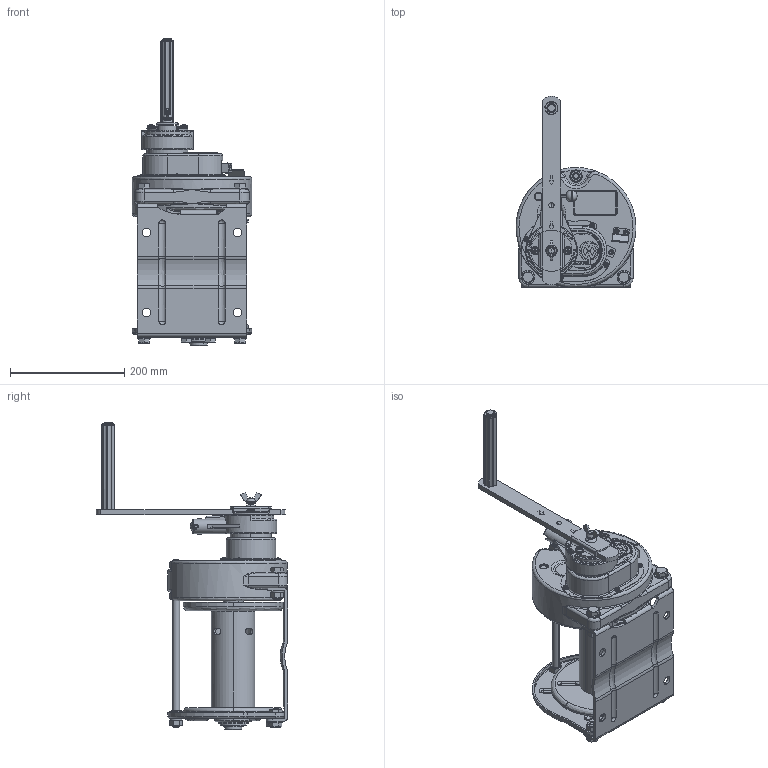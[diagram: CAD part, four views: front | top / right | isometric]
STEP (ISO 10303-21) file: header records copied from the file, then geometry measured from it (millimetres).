
FILE_DESCRIPTION( (''), '2;1');
FILE_NAME ('MR-10.stp','2023-12-22T17:13:24',(''),(''),'spGate 19.8.2 (****-****-****-****)','','');
FILE_SCHEMA (('AUTOMOTIVE_DESIGN'));
Length unit declared in the file: millimetre
Products named in the file (3): Assembly; MR-10-prt0; MR-10-prt1
Assembly tree (2 placements, depth 2):
  Assembly
    MR-10-prt0
    MR-10-prt1
Bounding box: 209.96 x 335.43 x 538.8 mm (x, y, z)
Volume: 4185229.4 mm3; surface area: 708896.1 mm2
Topology: 2 solids, 2 shells, 2987 faces, 7630 edges, 4805 vertices
Faces by surface type: plane 1495, cylinder 915, bspline 470, sphere 107
Entity records: 162647 total; most frequent: CARTESIAN_POINT 30741, ORIENTED_EDGE 15152, DIRECTION 14784, COLOUR_RGB 10565, PRESENTATION_STYLE_ASSIGNMENT 10565, STYLED_ITEM 10565, EDGE_CURVE 7576, DRAUGHTING_PRE_DEFINED_CURVE_FONT 7576
